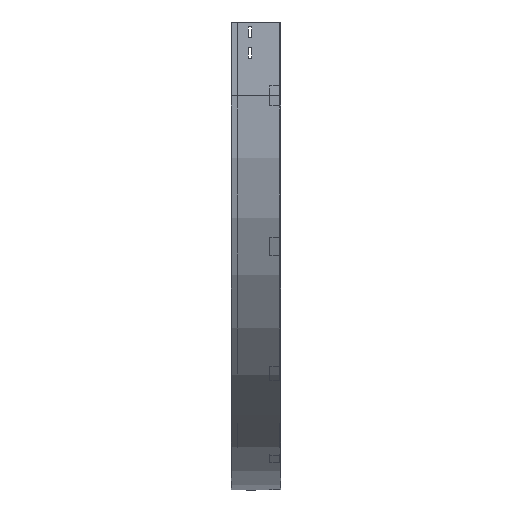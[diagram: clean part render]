
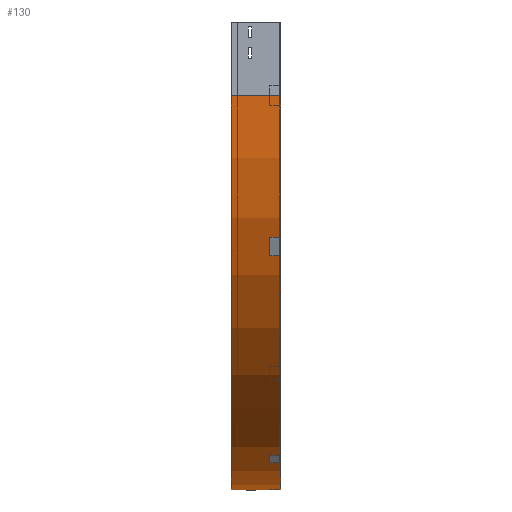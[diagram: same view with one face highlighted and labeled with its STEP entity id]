
A CAD part, left-side view. The second image highlights one B-rep face of the part: STEP entity #130.
In plain terms, the highlighted cylindrical face has radius 800 mm (diameter 1600 mm), a partial arc.
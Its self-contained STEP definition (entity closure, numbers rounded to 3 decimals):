
#73 = ORIENTED_EDGE ( 'NONE', *, *, #2145, .T. ) ;
#130 = ADVANCED_FACE ( 'NONE', ( #2626 ), #491, .T. ) ;
#162 = DIRECTION ( 'NONE',  ( 0., -1., 0. ) ) ;
#168 = CARTESIAN_POINT ( 'NONE',  ( 800., 0., -150. ) ) ;
#193 = DIRECTION ( 'NONE',  ( 0., -1., 0. ) ) ;
#233 = EDGE_CURVE ( 'NONE', #2800, #1458, #1066, .T. ) ;
#285 = CARTESIAN_POINT ( 'NONE',  ( 800., 100., -950. ) ) ;
#482 = LINE ( 'NONE', #501, #926 ) ;
#491 = CYLINDRICAL_SURFACE ( 'NONE', #2820, 800. ) ;
#496 = DIRECTION ( 'NONE',  ( -1., 0., 0. ) ) ;
#501 = CARTESIAN_POINT ( 'NONE',  ( 800., 0., -950. ) ) ;
#510 = DIRECTION ( 'NONE',  ( 0., 0., -1. ) ) ;
#772 = DIRECTION ( 'NONE',  ( 0., -1., 0. ) ) ;
#816 = CARTESIAN_POINT ( 'NONE',  ( 800., 100., -150. ) ) ;
#926 = VECTOR ( 'NONE', #162, 1000. ) ;
#1066 = CIRCLE ( 'NONE', #3256, 800. ) ;
#1413 = CARTESIAN_POINT ( 'NONE',  ( 0., 0., -150. ) ) ;
#1458 = VERTEX_POINT ( 'NONE', #1990 ) ;
#1924 = AXIS2_PLACEMENT_3D ( 'NONE', #816, #193, #496 ) ;
#1942 = LINE ( 'NONE', #2122, #2322 ) ;
#1990 = CARTESIAN_POINT ( 'NONE',  ( 800., 0., -950. ) ) ;
#2122 = CARTESIAN_POINT ( 'NONE',  ( 0., 0., -150. ) ) ;
#2141 = ORIENTED_EDGE ( 'NONE', *, *, #3095, .T. ) ;
#2145 = EDGE_CURVE ( 'NONE', #3682, #1458, #482, .T. ) ;
#2319 = EDGE_CURVE ( 'NONE', #2988, #2800, #1942, .T. ) ;
#2322 = VECTOR ( 'NONE', #3506, 1000. ) ;
#2372 = EDGE_LOOP ( 'NONE', ( #3616, #3850, #2141, #73 ) ) ;
#2626 = FACE_OUTER_BOUND ( 'NONE', #2372, .T. ) ;
#2723 = CIRCLE ( 'NONE', #1924, 800. ) ;
#2800 = VERTEX_POINT ( 'NONE', #1413 ) ;
#2820 = AXIS2_PLACEMENT_3D ( 'NONE', #3784, #3516, #510 ) ;
#2988 = VERTEX_POINT ( 'NONE', #3428 ) ;
#3095 = EDGE_CURVE ( 'NONE', #2988, #3682, #2723, .T. ) ;
#3256 = AXIS2_PLACEMENT_3D ( 'NONE', #168, #772, #3472 ) ;
#3428 = CARTESIAN_POINT ( 'NONE',  ( 0., 100., -150. ) ) ;
#3472 = DIRECTION ( 'NONE',  ( -1., 0., 0. ) ) ;
#3506 = DIRECTION ( 'NONE',  ( 0., -1., 0. ) ) ;
#3516 = DIRECTION ( 'NONE',  ( 0., -1., 0. ) ) ;
#3616 = ORIENTED_EDGE ( 'NONE', *, *, #233, .F. ) ;
#3682 = VERTEX_POINT ( 'NONE', #285 ) ;
#3784 = CARTESIAN_POINT ( 'NONE',  ( 800., 0., -150. ) ) ;
#3850 = ORIENTED_EDGE ( 'NONE', *, *, #2319, .F. ) ;
